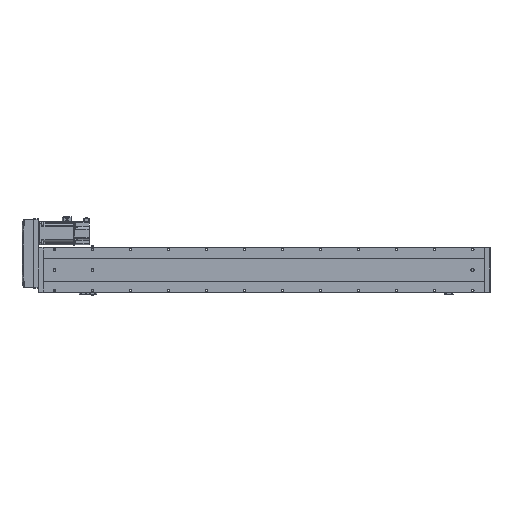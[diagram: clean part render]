
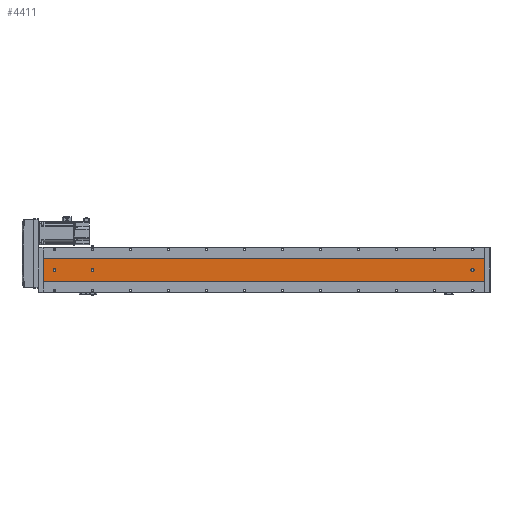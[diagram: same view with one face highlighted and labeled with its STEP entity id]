
A CAD part, front view. The second image highlights one B-rep face of the part: STEP entity #4411.
In plain terms, the highlighted planar face has unit normal (0, -1, 0).
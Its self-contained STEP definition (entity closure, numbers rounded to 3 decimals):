
#1441 = VECTOR ( 'NONE', #93571, 1000. ) ;
#3419 = CARTESIAN_POINT ( 'NONE',  ( -9.892, -52.848, 1161. ) ) ;
#3469 = VERTEX_POINT ( 'NONE', #111755 ) ;
#4411 = ADVANCED_FACE ( 'NONE', ( #67231, #99615, #49650, #56373 ), #58212, .F. ) ;
#5234 = EDGE_LOOP ( 'NONE', ( #53804, #94774, #20713, #20664 ) ) ;
#5458 = AXIS2_PLACEMENT_3D ( 'NONE', #46199, #70755, #10305 ) ;
#5787 = CARTESIAN_POINT ( 'NONE',  ( -69.892, -52.848, 0. ) ) ;
#5958 = VERTEX_POINT ( 'NONE', #22905 ) ;
#6636 = CIRCLE ( 'NONE', #28178, 3.5 ) ;
#8872 = LINE ( 'NONE', #85565, #52156 ) ;
#9679 = DIRECTION ( 'NONE',  ( 0., 1., 0. ) ) ;
#9871 = EDGE_LOOP ( 'NONE', ( #97963, #71447, #37568, #94852, #45505 ) ) ;
#10305 = DIRECTION ( 'NONE',  ( 0., 0., 1. ) ) ;
#12067 = DIRECTION ( 'NONE',  ( 0., 0., -1. ) ) ;
#13662 = DIRECTION ( 'NONE',  ( 0., 1., 0. ) ) ;
#14490 = CARTESIAN_POINT ( 'NONE',  ( -39.892, -52.848, 1034.5 ) ) ;
#16239 = EDGE_CURVE ( 'NONE', #76081, #90569, #44519, .T. ) ;
#20664 = ORIENTED_EDGE ( 'NONE', *, *, #16239, .T. ) ;
#20713 = ORIENTED_EDGE ( 'NONE', *, *, #24855, .F. ) ;
#21191 = LINE ( 'NONE', #3419, #91465 ) ;
#21989 = CARTESIAN_POINT ( 'NONE',  ( -39.892, -52.848, 32. ) ) ;
#22431 = DIRECTION ( 'NONE',  ( 0., 0., 1. ) ) ;
#22661 = EDGE_CURVE ( 'NONE', #5958, #87034, #27607, .T. ) ;
#22905 = CARTESIAN_POINT ( 'NONE',  ( -39.892, -52.848, 1027.5 ) ) ;
#23196 = VECTOR ( 'NONE', #39529, 1000. ) ;
#24855 = EDGE_CURVE ( 'NONE', #76081, #52729, #54341, .T. ) ;
#27336 = VERTEX_POINT ( 'NONE', #112065 ) ;
#27607 = CIRCLE ( 'NONE', #72987, 3.5 ) ;
#28178 = AXIS2_PLACEMENT_3D ( 'NONE', #74576, #47404, #22431 ) ;
#29153 = EDGE_CURVE ( 'NONE', #52068, #101995, #54648, .T. ) ;
#31585 = DIRECTION ( 'NONE',  ( 0., 0., 1. ) ) ;
#32232 = EDGE_LOOP ( 'NONE', ( #98150, #40589 ) ) ;
#33842 = DIRECTION ( 'NONE',  ( 0., 1., 0. ) ) ;
#37178 = AXIS2_PLACEMENT_3D ( 'NONE', #52564, #50630, #49893 ) ;
#37291 = CIRCLE ( 'NONE', #90940, 3.5 ) ;
#37568 = ORIENTED_EDGE ( 'NONE', *, *, #54701, .T. ) ;
#38764 = AXIS2_PLACEMENT_3D ( 'NONE', #21989, #13662, #39372 ) ;
#39372 = DIRECTION ( 'NONE',  ( 0., 0., 1. ) ) ;
#39529 = DIRECTION ( 'NONE',  ( 1., 0., 0. ) ) ;
#40589 = ORIENTED_EDGE ( 'NONE', *, *, #60211, .T. ) ;
#42357 = CARTESIAN_POINT ( 'NONE',  ( -69.892, -52.848, 1161. ) ) ;
#42515 = CARTESIAN_POINT ( 'NONE',  ( -39.892, -52.848, 30. ) ) ;
#43766 = VECTOR ( 'NONE', #31585, 1000. ) ;
#44519 = LINE ( 'NONE', #42357, #85040 ) ;
#44832 = CARTESIAN_POINT ( 'NONE',  ( -39.892, -52.848, 1031. ) ) ;
#45505 = ORIENTED_EDGE ( 'NONE', *, *, #109058, .T. ) ;
#46199 = CARTESIAN_POINT ( 'NONE',  ( -39.892, -52.848, 1131. ) ) ;
#46592 = CARTESIAN_POINT ( 'NONE',  ( -36.392, -52.848, 30. ) ) ;
#47404 = DIRECTION ( 'NONE',  ( 0., 1., 0. ) ) ;
#48574 = AXIS2_PLACEMENT_3D ( 'NONE', #76628, #33842, #61905 ) ;
#49650 = FACE_BOUND ( 'NONE', #98497, .T. ) ;
#49893 = DIRECTION ( 'NONE',  ( 0., 0., 1. ) ) ;
#50630 = DIRECTION ( 'NONE',  ( 0., 1., 0. ) ) ;
#51216 = DIRECTION ( 'NONE',  ( 0., 0., -1. ) ) ;
#51520 = LINE ( 'NONE', #85261, #1441 ) ;
#52004 = DIRECTION ( 'NONE',  ( 0., 1., 0. ) ) ;
#52068 = VERTEX_POINT ( 'NONE', #69298 ) ;
#52156 = VECTOR ( 'NONE', #51216, 1000. ) ;
#52564 = CARTESIAN_POINT ( 'NONE',  ( -69.892, -52.848, 1161. ) ) ;
#52729 = VERTEX_POINT ( 'NONE', #96681 ) ;
#53804 = ORIENTED_EDGE ( 'NONE', *, *, #96686, .T. ) ;
#54341 = LINE ( 'NONE', #91309, #23196 ) ;
#54648 = CIRCLE ( 'NONE', #5458, 3.5 ) ;
#54701 = EDGE_CURVE ( 'NONE', #74161, #100391, #8872, .T. ) ;
#56373 = FACE_OUTER_BOUND ( 'NONE', #5234, .T. ) ;
#58212 = PLANE ( 'NONE',  #37178 ) ;
#58777 = VERTEX_POINT ( 'NONE', #59869 ) ;
#59869 = CARTESIAN_POINT ( 'NONE',  ( -43.392, -52.848, 32. ) ) ;
#60211 = EDGE_CURVE ( 'NONE', #87034, #5958, #37291, .T. ) ;
#60326 = CARTESIAN_POINT ( 'NONE',  ( -39.892, -52.848, 1031. ) ) ;
#61905 = DIRECTION ( 'NONE',  ( 0., 0., 1. ) ) ;
#63074 = CIRCLE ( 'NONE', #98467, 3.5 ) ;
#64754 = EDGE_CURVE ( 'NONE', #100391, #27336, #83573, .T. ) ;
#66745 = LINE ( 'NONE', #67179, #43766 ) ;
#67179 = CARTESIAN_POINT ( 'NONE',  ( -43.392, -52.848, 1161. ) ) ;
#67231 = FACE_BOUND ( 'NONE', #9871, .T. ) ;
#69170 = EDGE_CURVE ( 'NONE', #3469, #58777, #66745, .T. ) ;
#69298 = CARTESIAN_POINT ( 'NONE',  ( -39.892, -52.848, 1134.5 ) ) ;
#70098 = EDGE_CURVE ( 'NONE', #58777, #74161, #105821, .T. ) ;
#70161 = DIRECTION ( 'NONE',  ( 0., 0., 1. ) ) ;
#70755 = DIRECTION ( 'NONE',  ( 0., 1., 0. ) ) ;
#71447 = ORIENTED_EDGE ( 'NONE', *, *, #70098, .T. ) ;
#72987 = AXIS2_PLACEMENT_3D ( 'NONE', #60326, #52004, #95061 ) ;
#73494 = VERTEX_POINT ( 'NONE', #95274 ) ;
#74161 = VERTEX_POINT ( 'NONE', #80637 ) ;
#74576 = CARTESIAN_POINT ( 'NONE',  ( -39.892, -52.848, 1131. ) ) ;
#76081 = VERTEX_POINT ( 'NONE', #101233 ) ;
#76628 = CARTESIAN_POINT ( 'NONE',  ( -39.892, -52.848, 30. ) ) ;
#80637 = CARTESIAN_POINT ( 'NONE',  ( -36.392, -52.848, 32. ) ) ;
#83573 = CIRCLE ( 'NONE', #48574, 3.5 ) ;
#83734 = EDGE_CURVE ( 'NONE', #52729, #73494, #21191, .T. ) ;
#85040 = VECTOR ( 'NONE', #111512, 1000. ) ;
#85261 = CARTESIAN_POINT ( 'NONE',  ( -69.892, -52.848, 0. ) ) ;
#85565 = CARTESIAN_POINT ( 'NONE',  ( -36.392, -52.848, 1161. ) ) ;
#87034 = VERTEX_POINT ( 'NONE', #14490 ) ;
#88811 = EDGE_CURVE ( 'NONE', #101995, #52068, #6636, .T. ) ;
#90569 = VERTEX_POINT ( 'NONE', #5787 ) ;
#90940 = AXIS2_PLACEMENT_3D ( 'NONE', #44832, #9679, #70161 ) ;
#91245 = ORIENTED_EDGE ( 'NONE', *, *, #29153, .T. ) ;
#91309 = CARTESIAN_POINT ( 'NONE',  ( -69.892, -52.848, 1161. ) ) ;
#91465 = VECTOR ( 'NONE', #12067, 1000. ) ;
#93571 = DIRECTION ( 'NONE',  ( 1., 0., 0. ) ) ;
#94774 = ORIENTED_EDGE ( 'NONE', *, *, #83734, .F. ) ;
#94852 = ORIENTED_EDGE ( 'NONE', *, *, #64754, .T. ) ;
#95061 = DIRECTION ( 'NONE',  ( 0., 0., 1. ) ) ;
#95274 = CARTESIAN_POINT ( 'NONE',  ( -9.892, -52.848, 0. ) ) ;
#96681 = CARTESIAN_POINT ( 'NONE',  ( -9.892, -52.848, 1161. ) ) ;
#96686 = EDGE_CURVE ( 'NONE', #90569, #73494, #51520, .T. ) ;
#97963 = ORIENTED_EDGE ( 'NONE', *, *, #69170, .T. ) ;
#98150 = ORIENTED_EDGE ( 'NONE', *, *, #22661, .T. ) ;
#98467 = AXIS2_PLACEMENT_3D ( 'NONE', #42515, #102902, #111666 ) ;
#98497 = EDGE_LOOP ( 'NONE', ( #108379, #91245 ) ) ;
#99615 = FACE_BOUND ( 'NONE', #32232, .T. ) ;
#99639 = CARTESIAN_POINT ( 'NONE',  ( -39.892, -52.848, 1127.5 ) ) ;
#100391 = VERTEX_POINT ( 'NONE', #46592 ) ;
#101233 = CARTESIAN_POINT ( 'NONE',  ( -69.892, -52.848, 1161. ) ) ;
#101995 = VERTEX_POINT ( 'NONE', #99639 ) ;
#102902 = DIRECTION ( 'NONE',  ( 0., 1., 0. ) ) ;
#105821 = CIRCLE ( 'NONE', #38764, 3.5 ) ;
#108379 = ORIENTED_EDGE ( 'NONE', *, *, #88811, .T. ) ;
#109058 = EDGE_CURVE ( 'NONE', #27336, #3469, #63074, .T. ) ;
#111512 = DIRECTION ( 'NONE',  ( 0., 0., -1. ) ) ;
#111666 = DIRECTION ( 'NONE',  ( 0., 0., 1. ) ) ;
#111755 = CARTESIAN_POINT ( 'NONE',  ( -43.392, -52.848, 30. ) ) ;
#112065 = CARTESIAN_POINT ( 'NONE',  ( -39.892, -52.848, 26.5 ) ) ;
